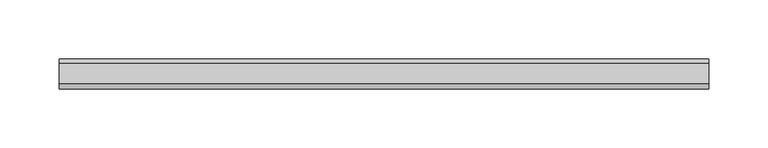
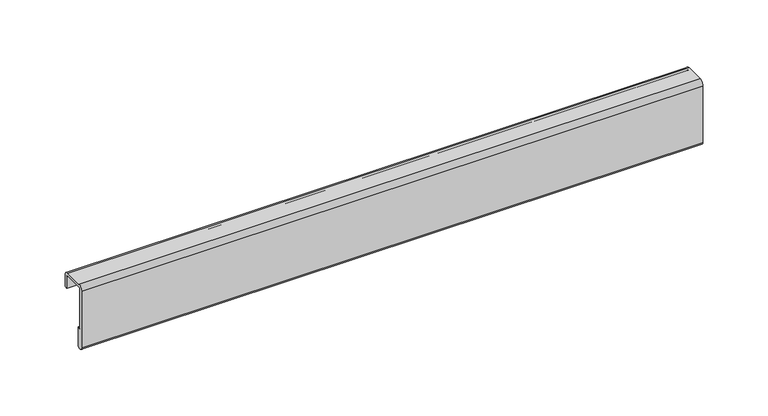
"""IFC4 building model written with IfcOpenShell, lengths in millimetres: furniture geometry, Accessories-Teknion-FHRE-AI_Healthcare-Equipment_Rail-R2021 : Accessories-Teknion-FHRE-AI_Healthcare-Equipment_Rail-R2021."""

import ifcopenshell
import ifcopenshell.guid

model = None  # the IFC model being written
_history = None  # IfcOwnerHistory: only IFC2X3 demands one
_inside = {}  # id of a spatial element -> (the spatial element, [elements in it])
_under = {}  # id of a project, library or spatial element -> (it, [spatial elements below it])
_declared = {}  # id of a project -> (the project, [libraries it declares])
_typed = {}  # id of a type object -> (the type object, [elements of that type])
_made_of = {}  # id of a material, layer set ... -> (it, [elements and type objects made of it])


def new_model(schema):
    """Start an empty IFC model of exactly this schema.

    Asked for "IFC4X3", IfcOpenShell would pick the latest addendum, in which some entities
    have other attributes; the version numbers below select the first issue.
    IFC2X3 requires an IfcOwnerHistory on every rooted entity: one is made here for all.
    """
    global model, _history
    if schema == "IFC4X3":
        model = ifcopenshell.file(schema_version=(4, 3, 0, 0))
    else:
        model = ifcopenshell.file(schema=schema)
    _inside.clear()
    _under.clear()
    _declared.clear()
    _typed.clear()
    _made_of.clear()
    _history = None
    if model.schema == "IFC2X3":
        org = make("IfcOrganization", Name="unknown")
        user = make(
            "IfcPersonAndOrganization",
            ThePerson=make("IfcPerson", FamilyName="unknown"),
            TheOrganization=org,
        )
        app = make(
            "IfcApplication",
            ApplicationDeveloper=org,
            Version="unknown",
            ApplicationFullName="unknown",
            ApplicationIdentifier="unknown",
        )
        _history = make(
            "IfcOwnerHistory",
            OwningUser=user,
            OwningApplication=app,
            ChangeAction="ADDED",
            CreationDate=0,
        )
    return model


def make(cls, **values):
    """One entity of the class cls with the attributes given. An attribute that is None is left unset."""
    return model.create_entity(
        cls, **{name: value for name, value in values.items() if value is not None}
    )


def rooted(cls, **values):
    """An entity with a GlobalId (a new one), such as an element, a storey or a relation."""
    return make(cls, GlobalId=ifcopenshell.guid.new(), OwnerHistory=_history, **values)


def si_unit(unit_type, name, prefix=None):
    """IfcSIUnit, for example si_unit("LENGTHUNIT", "METRE", prefix="MILLI")."""
    return make("IfcSIUnit", UnitType=unit_type, Prefix=prefix, Name=name)


def assignment(units):
    """IfcUnitAssignment: the units of a project."""
    return None if units is None else make("IfcUnitAssignment", Units=units)


def point(xyz):
    """IfcCartesianPoint."""
    return None if xyz is None else make("IfcCartesianPoint", Coordinates=xyz)


def direction(xyz):
    """IfcDirection."""
    return None if xyz is None else make("IfcDirection", DirectionRatios=xyz)


def frame(location, z_axis=None, x_axis=None):
    """IfcAxis2Placement3D, a coordinate frame: its origin and axes. An axis left out is left unset."""
    return make(
        "IfcAxis2Placement3D",
        Location=point(location),
        Axis=direction(z_axis),
        RefDirection=direction(x_axis),
    )


def frame_2d(location, x_axis=None):
    """IfcAxis2Placement2D, a coordinate frame in the plane: its origin and x axis."""
    return make(
        "IfcAxis2Placement2D", Location=point(location), RefDirection=direction(x_axis)
    )


def origin():
    """The frame at (0, 0, 0) with its axes left unset."""
    return frame((0.0, 0.0, 0.0))


def place(relative_to, where):
    """IfcLocalPlacement: puts the frame where relative to a parent placement (None: the world)."""
    return make(
        "IfcLocalPlacement", PlacementRelTo=relative_to, RelativePlacement=where
    )


def context(
    kind, dimensions, precision=None, world=None, true_north=None, identifier=None
):
    """IfcGeometricRepresentationContext, for example the 3D "Model" context."""
    return make(
        "IfcGeometricRepresentationContext",
        ContextIdentifier=identifier,
        ContextType=kind,
        CoordinateSpaceDimension=dimensions,
        Precision=precision,
        WorldCoordinateSystem=world,
        TrueNorth=true_north,
    )


def project(units=None, contexts=None):
    """IfcProject with its units and contexts."""
    return rooted(
        "IfcProject",
        Name="project",
        RepresentationContexts=contexts,
        UnitsInContext=assignment(units),
    )


def spatial(cls, under=None, at=None, **own):
    """A site, building, storey or space (cls), placed at a placement, below another one or the project."""
    s = rooted(cls, ObjectPlacement=at, **own)
    if under is not None:
        _under.setdefault(under.id(), (under, []))[1].append(s)
    return s


def polyline(points):
    """IfcPolyline through the points."""
    return make("IfcPolyline", Points=[point(p) for p in points])


def circle_curve(where, radius):
    """IfcCircle in the frame where."""
    return make("IfcCircle", Position=where, Radius=radius)


def trimmed(basis, trim1, trim2, sense, master):
    """IfcTrimmedCurve: the piece of a basis curve between two trims."""
    return make(
        "IfcTrimmedCurve",
        BasisCurve=basis,
        Trim1=trim1,
        Trim2=trim2,
        SenseAgreement=sense,
        MasterRepresentation=master,
    )


def segment(curve, same_sense, transition):
    """IfcCompositeCurveSegment."""
    return make(
        "IfcCompositeCurveSegment",
        Transition=transition,
        SameSense=same_sense,
        ParentCurve=curve,
    )


def composite_curve(segments, self_intersect=None):
    """IfcCompositeCurve: segments joined end to end."""
    return make("IfcCompositeCurve", Segments=segments, SelfIntersect=self_intersect)


def outline(outer, holes=None, kind="AREA"):
    """IfcArbitraryClosedProfileDef: a profile drawn as a closed curve; with holes, ...WithVoids."""
    if holes is None:
        return make("IfcArbitraryClosedProfileDef", ProfileType=kind, OuterCurve=outer)
    return make(
        "IfcArbitraryProfileDefWithVoids",
        ProfileType=kind,
        OuterCurve=outer,
        InnerCurves=holes,
    )


def extrude(swept, where, along, depth):
    """IfcExtrudedAreaSolid: the profile swept, set in the frame where, extruded along a direction by depth."""
    return make(
        "IfcExtrudedAreaSolid",
        SweptArea=swept,
        Position=where,
        ExtrudedDirection=direction(along),
        Depth=depth,
    )


def shape(context_of_items, identifier, shape_type, items):
    """IfcShapeRepresentation: the items that make up one representation, for example the "Body"."""
    return make(
        "IfcShapeRepresentation",
        ContextOfItems=context_of_items,
        RepresentationIdentifier=identifier,
        RepresentationType=shape_type,
        Items=items,
    )


def source(mapping_origin, context_of_items, identifier, shape_type, items):
    """IfcRepresentationMap: a shape defined once, which mapped items show again and again."""
    return make(
        "IfcRepresentationMap",
        MappingOrigin=mapping_origin,
        MappedRepresentation=shape(context_of_items, identifier, shape_type, items),
    )


def transform(
    local_origin,
    x_axis=None,
    y_axis=None,
    z_axis=None,
    scale=None,
    scale2=None,
    scale3=None,
    uniform=True,
):
    """IfcCartesianTransformationOperator3D, or its non-uniform kind. x_axis, y_axis, z_axis: its Axis1, 2, 3."""
    if uniform:
        return make(
            "IfcCartesianTransformationOperator3D",
            Axis1=direction(x_axis),
            Axis2=direction(y_axis),
            LocalOrigin=point(local_origin),
            Scale=scale,
            Axis3=direction(z_axis),
        )
    return make(
        "IfcCartesianTransformationOperator3DnonUniform",
        Axis1=direction(x_axis),
        Axis2=direction(y_axis),
        LocalOrigin=point(local_origin),
        Scale=scale,
        Axis3=direction(z_axis),
        Scale2=scale2,
        Scale3=scale3,
    )


def mapped(mapping_source, mapping_target):
    """IfcMappedItem: shows the shape of a source again, moved by a transform."""
    return make(
        "IfcMappedItem", MappingSource=mapping_source, MappingTarget=mapping_target
    )


def made_of(thing, what):
    """Note that an element or type object is made of a material, layer set ...; save() writes the relation."""
    if what is not None:
        _made_of.setdefault(what.id(), (what, []))[1].append(thing)
    return thing


def element(
    cls,
    number,
    at=None,
    inside=None,
    cuts=None,
    type_object=None,
    material=None,
    context=None,
    identifier="Body",
    shape_type=None,
    held_by="IfcProductDefinitionShape",
    body=None,
    shapes=None,
    **own,
):
    """One element of the class cls, such as IfcWall. Its Tag is "e" and its number.

    at: its placement. inside: the storey or other place that contains it. cuts: it is an
    opening in that element (IfcRelVoidsElement). A single representation is given by context,
    identifier, shape_type and body (its items); several are given by shapes. held_by: the class
    of the entity that holds the representations. save() writes the other relations.
    """
    e = rooted(cls, Tag="e%d" % number, ObjectPlacement=at, **own)
    if body is not None:
        shapes = [shape(context, identifier, shape_type, body)]
    if shapes is not None:
        e.Representation = make(held_by, Representations=shapes)
    if inside is not None:
        _inside.setdefault(inside.id(), (inside, []))[1].append(e)
    if cuts is not None:
        rooted(
            "IfcRelVoidsElement", RelatingBuildingElement=cuts, RelatedOpeningElement=e
        )
    if type_object is not None:
        _typed.setdefault(type_object.id(), (type_object, []))[1].append(e)
    return made_of(e, material)


def aggregate(whole, parts):
    """IfcRelAggregates: a whole, such as a stair, and the parts it consists of."""
    return rooted("IfcRelAggregates", RelatingObject=whole, RelatedObjects=parts)


def save(model, path):
    """Write the relations noted so far, then the file.

    IfcRelAggregates (storeys below a building ...), IfcRelContainedInSpatialStructure (elements
    in a storey), IfcRelDefinesByType, IfcRelAssociatesMaterial and IfcRelDeclares: one each for
    every whole, place, type object, material and project.
    """
    for whole, parts in _under.values():
        aggregate(whole, parts)
    for where, things in _inside.values():
        rooted(
            "IfcRelContainedInSpatialStructure",
            RelatedElements=things,
            RelatingStructure=where,
        )
    for kind, things in _typed.values():
        rooted("IfcRelDefinesByType", RelatedObjects=things, RelatingType=kind)
    for what, things in _made_of.values():
        rooted("IfcRelAssociatesMaterial", RelatedObjects=things, RelatingMaterial=what)
    for by, libraries in _declared.values():
        rooted("IfcRelDeclares", RelatingContext=by, RelatedDefinitions=libraries)
    model.write(path)


def furniture_e14c638e(model_context):
    return source(origin(), model_context, "Body", "SweptSolid", [
        extrude(outline(composite_curve([segment(polyline([(2.152082, -37.2494993), (2.152082, 15.7095001)]), True, "CONTINUOUS"), segment(trimmed(circle_curve(frame_2d((6.3430814, 15.7095001)), 4.1909994), [point((2.152082, 15.7095001))], [point((6.3430814, 19.9004995))], False, "CARTESIAN"), True, "CONTINUOUS"), segment(polyline([(6.3430814, 19.9004995), (23.3612474, 19.9004995)]), True, "CONTINUOUS"), segment(trimmed(circle_curve(frame_2d((23.3612474, 15.709499)), 4.1910005), [point((23.3612474, 19.9004995))], [point((27.5522479, 15.709499))], False, "CARTESIAN"), True, "CONTINUOUS"), segment(polyline([(27.5522479, 15.709499), (27.5522479, 4.8192492), (24.8852479, 4.8192492), (24.8852479, 15.709499)]), True, "CONTINUOUS"), segment(trimmed(circle_curve(frame_2d((23.3612482, 15.709499)), 1.5239997), [point((24.8852479, 15.709499))], [point((23.3612482, 17.2334987))], True, "CARTESIAN"), True, "CONTINUOUS"), segment(polyline([(23.3612482, 17.2334987), (6.3432486, 17.2334987)]), True, "CONTINUOUS"), segment(trimmed(circle_curve(frame_2d((6.3432486, 15.7094966)), 1.5240021), [point((6.3432486, 17.2334987))], [point((4.8192465, 15.7094966))], True, "CARTESIAN"), True, "CONTINUOUS"), segment(polyline([(4.8192465, 15.7094966), (4.8192465, -20.9165006), (7.5862482, -20.9165006), (7.5862482, -37.2494993)]), True, "CONTINUOUS"), segment(trimmed(circle_curve(frame_2d((4.8691651, -37.2494993)), 2.7170831), [point((7.5862482, -37.2494993))], [point((2.152082, -37.2494993))], False, "CARTESIAN"), True, "CONTINUOUS")], self_intersect=False)), frame((-398.9437887, 0.0, 0.0), z_axis=(1.0, 0.0, 0.0), x_axis=(0.0, 1.0, 0.0)), (0.0, 0.0, 1.0), 550.4484629),
    ])


if __name__ == "__main__":
    model = new_model("IFC4")
    model_context = context("Model", 3, world=origin())
    ifc_project = project(units=[si_unit("LENGTHUNIT", "METRE", prefix="MILLI")], contexts=[model_context])
    site = spatial("IfcSite", under=ifc_project)
    building = spatial("IfcBuilding", under=site)
    placement = place(None, origin())
    furniture_shape = furniture_e14c638e(model_context)
    element("IfcFurniture", 1, ObjectType="Accessories-Teknion-FHRE-AI_Healthcare-Equipment_Rail-R2021 : Accessories-Teknion-FHRE-AI_Healthcare-Equipment_Rail-R2021", at=placement, inside=building, context=model_context, shape_type="MappedRepresentation", body=[
        mapped(furniture_shape, transform((0.0, 0.0, 0.0), x_axis=(1.0, 0.0, 0.0), y_axis=(0.0, 1.0, 0.0), z_axis=(0.0, 0.0, 1.0))),
    ])
    save(model, "model.ifc")
